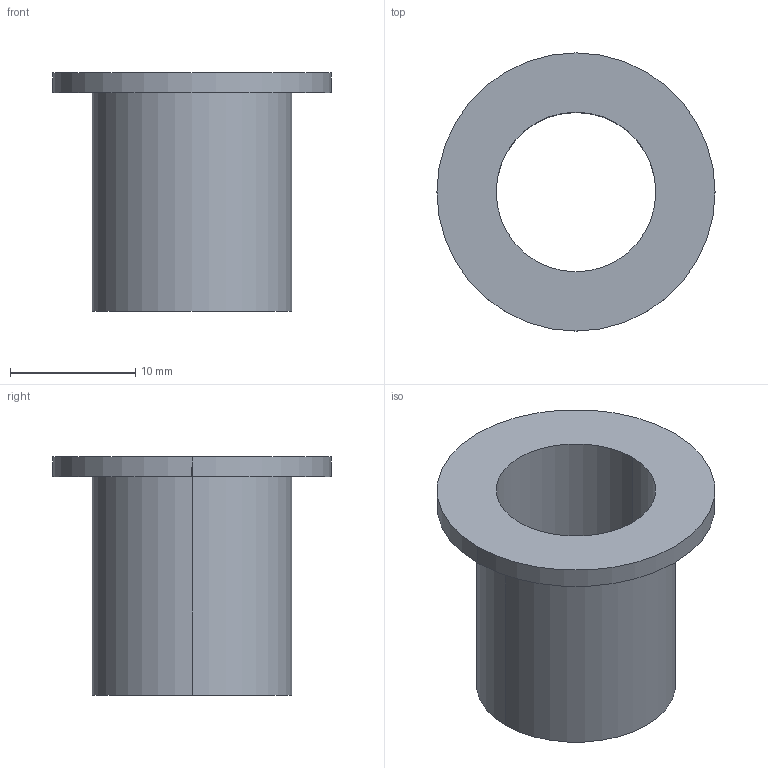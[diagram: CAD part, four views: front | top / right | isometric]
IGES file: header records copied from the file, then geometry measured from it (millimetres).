
Global section: file name: C:\Documents and Settings\Administrator\Desktop\Transfer Temp\bushing-fbb-8-12.igs; native system: AutoDesk Inventor R2.0 ; preprocessor: AutoDesk Inventor Iges Exporter R2.0; author: No Author specified; organization: No Organization specified; date: 20011227.203424; units: inch
Bounding box: 22.23 x 22.23 x 19.05 mm (x, y, z)
Surface area: 2268.1 mm2 (no closed solid volume)
Topology: 0 solids, 0 shells, 9 faces, 36 edges, 36 vertices
Faces by surface type: revolution 6, bspline 3
